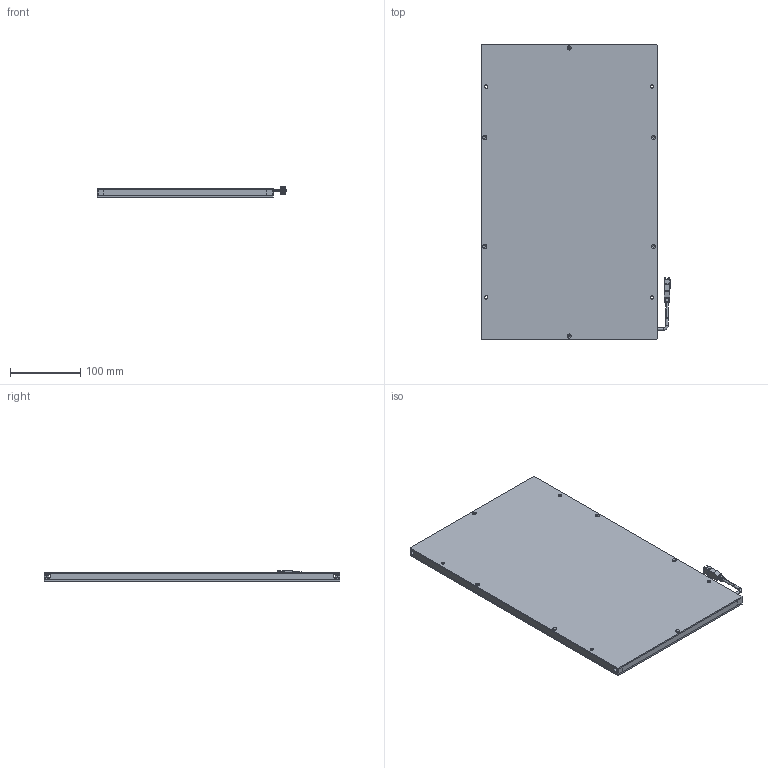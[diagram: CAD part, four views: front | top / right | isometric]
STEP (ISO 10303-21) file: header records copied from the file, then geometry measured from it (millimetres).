
FILE_DESCRIPTION (( 'STEP AP203' ), '1' );
FILE_NAME ('CRT-FLC380210-¼òÒ×3DÍ¼.STEP', '2021-11-29T02:15:17', ( 'Admin' ), ( '' ), 'SwSTEP 2.0', 'SolidWorks 2018', '' );
FILE_SCHEMA (( 'CONFIG_CONTROL_DESIGN' ));
Length unit declared in the file: millimetre
Products named in the file (1): CRT-FLC380210-潠眢3D芞
Bounding box: 269.45 x 420 x 14.85 mm (x, y, z)
Surface area: 356279.7 mm2 (no closed solid volume)
Topology: 0 solids, 18 shells, 240 faces, 817 edges, 578 vertices
Faces by surface type: plane 126, cylinder 93, cone 15, bspline 5, torus 1
Entity records: 9300 total; most frequent: CARTESIAN_POINT 2172, DIRECTION 1497, ORIENTED_EDGE 1267, EDGE_CURVE 817, VERTEX_POINT 578, VECTOR 515, LINE 515, AXIS2_PLACEMENT_3D 491
